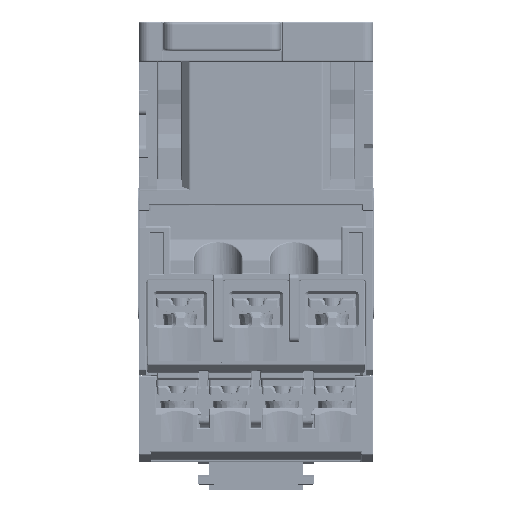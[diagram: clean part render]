
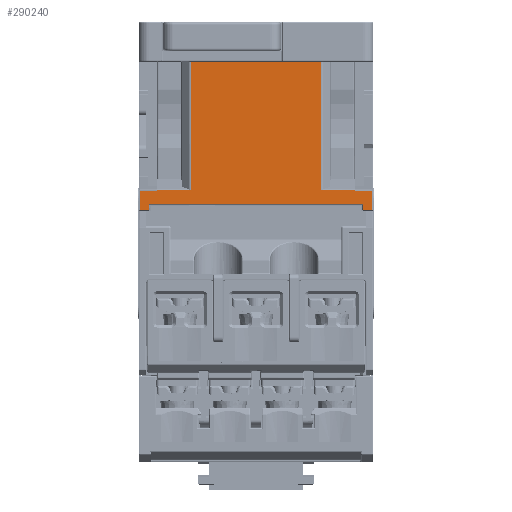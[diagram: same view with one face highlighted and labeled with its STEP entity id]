
A CAD part, front view. The second image highlights one B-rep face of the part: STEP entity #290240.
In plain terms, the highlighted planar face has unit normal (0, -1, 0).
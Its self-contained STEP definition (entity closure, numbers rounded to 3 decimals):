
#24286=DIRECTION('',(0.,0.,-1.));
#24287=VECTOR('',#24286,1.1);
#24288=CARTESIAN_POINT('',(2.65,9.,-34.7));
#24289=LINE('',#24288,#24287);
#24290=DIRECTION('',(-1.,0.,0.));
#24291=VECTOR('',#24290,1.7);
#24292=CARTESIAN_POINT('',(2.65,9.,-35.8));
#24293=LINE('',#24292,#24291);
#24294=DIRECTION('',(0.,0.,1.));
#24295=VECTOR('',#24294,3.648);
#24296=CARTESIAN_POINT('',(0.95,9.,-35.8));
#24297=LINE('',#24296,#24295);
#24298=DIRECTION('',(1.,0.,0.));
#24299=VECTOR('',#24298,3.4);
#24300=CARTESIAN_POINT('',(0.95,9.,-32.152));
#24301=LINE('',#24300,#24299);
#24302=DIRECTION('',(0.,0.,-1.));
#24303=VECTOR('',#24302,24.43);
#24304=CARTESIAN_POINT('',(10.657,9.,-7.7));
#24305=LINE('',#24304,#24303);
#24306=DIRECTION('',(1.,0.,0.));
#24307=VECTOR('',#24306,24.986);
#24308=CARTESIAN_POINT('',(10.657,9.,-7.7));
#24309=LINE('',#24308,#24307);
#24310=DIRECTION('',(0.,0.,1.));
#24311=VECTOR('',#24310,24.43);
#24312=CARTESIAN_POINT('',(35.643,9.,-32.13));
#24313=LINE('',#24312,#24311);
#24314=DIRECTION('',(0.,0.,1.));
#24315=VECTOR('',#24314,0.022);
#24316=CARTESIAN_POINT('',(41.95,9.,-32.152));
#24317=LINE('',#24316,#24315);
#24318=DIRECTION('',(1.,0.,0.));
#24319=VECTOR('',#24318,3.4);
#24320=CARTESIAN_POINT('',(41.95,9.,-32.152));
#24321=LINE('',#24320,#24319);
#24322=DIRECTION('',(0.,0.,-1.));
#24323=VECTOR('',#24322,3.648);
#24324=CARTESIAN_POINT('',(45.35,9.,-32.152));
#24325=LINE('',#24324,#24323);
#24326=DIRECTION('',(-1.,0.,0.));
#24327=VECTOR('',#24326,1.7);
#24328=CARTESIAN_POINT('',(45.35,9.,-35.8));
#24329=LINE('',#24328,#24327);
#24330=DIRECTION('',(0.,0.,1.));
#24331=VECTOR('',#24330,1.1);
#24332=CARTESIAN_POINT('',(43.65,9.,-35.8));
#24333=LINE('',#24332,#24331);
#24334=DIRECTION('',(1.,0.,0.));
#24335=VECTOR('',#24334,41.);
#24336=CARTESIAN_POINT('',(2.65,9.,-34.7));
#24337=LINE('',#24336,#24335);
#33868=DIRECTION('',(-1.,0.,0.));
#33869=VECTOR('',#33868,6.307);
#33870=CARTESIAN_POINT('',(41.95,9.,-32.13));
#33871=LINE('',#33870,#33869);
#33890=CARTESIAN_POINT('',(35.643,9.,-32.13));
#33912=CARTESIAN_POINT('',(10.657,9.,-32.13));
#33923=DIRECTION('',(-1.,0.,0.));
#33924=VECTOR('',#33923,6.307);
#33925=CARTESIAN_POINT('',(10.657,9.,-32.13));
#33926=LINE('',#33925,#33924);
#33999=CARTESIAN_POINT('',(4.35,8.999,-32.136));
#34284=CARTESIAN_POINT('',(4.35,9.,-32.131));
#34285=CARTESIAN_POINT('',(4.35,9.,-32.134));
#34286=CARTESIAN_POINT('',(4.35,9.,-32.137));
#34287=CARTESIAN_POINT('',(4.35,9.,-32.145));
#34288=CARTESIAN_POINT('',(4.35,9.,-32.149));
#34289=CARTESIAN_POINT('',(4.35,9.,-32.152));
#210471=CARTESIAN_POINT('',(0.95,9.,-32.152));
#210472=CARTESIAN_POINT('',(4.35,9.,-32.152));
#210473=VERTEX_POINT('',#210471);
#210474=VERTEX_POINT('',#210472);
#210487=CARTESIAN_POINT('',(41.95,9.,-32.152));
#210488=CARTESIAN_POINT('',(45.35,9.,-32.152));
#210489=VERTEX_POINT('',#210487);
#210490=VERTEX_POINT('',#210488);
#210501=VERTEX_POINT('',#33999);
#210510=CARTESIAN_POINT('',(41.95,9.,-32.13));
#210512=VERTEX_POINT('',#210510);
#211212=VERTEX_POINT('',#33890);
#211213=VERTEX_POINT('',#33912);
#214453=CARTESIAN_POINT('',(35.643,9.,-7.7));
#214454=VERTEX_POINT('',#214453);
#214457=CARTESIAN_POINT('',(10.657,9.,-7.7));
#214458=VERTEX_POINT('',#214457);
#215044=CARTESIAN_POINT('',(45.35,9.,-35.8));
#215046=VERTEX_POINT('',#215044);
#215085=CARTESIAN_POINT('',(0.95,9.,-35.8));
#215087=VERTEX_POINT('',#215085);
#215191=CARTESIAN_POINT('',(2.65,9.,-35.8));
#215192=VERTEX_POINT('',#215191);
#215195=CARTESIAN_POINT('',(2.65,9.,-34.7));
#215196=VERTEX_POINT('',#215195);
#215205=CARTESIAN_POINT('',(43.65,9.,-35.8));
#215206=VERTEX_POINT('',#215205);
#215207=CARTESIAN_POINT('',(43.65,9.,-34.7));
#215208=VERTEX_POINT('',#215207);
#290202=CARTESIAN_POINT('',(8.95,9.,-7.5));
#290203=DIRECTION('',(0.,1.,0.));
#290204=DIRECTION('',(0.,0.,-1.));
#290205=AXIS2_PLACEMENT_3D('',#290202,#290203,#290204);
#290206=PLANE('',#290205);
#290208=ORIENTED_EDGE('',*,*,#290207,.T.);
#290210=ORIENTED_EDGE('',*,*,#290209,.T.);
#290212=ORIENTED_EDGE('',*,*,#290211,.T.);
#290214=ORIENTED_EDGE('',*,*,#290213,.T.);
#290216=ORIENTED_EDGE('',*,*,#290215,.F.);
#290218=ORIENTED_EDGE('',*,*,#290217,.F.);
#290220=ORIENTED_EDGE('',*,*,#290219,.F.);
#290222=ORIENTED_EDGE('',*,*,#290221,.T.);
#290224=ORIENTED_EDGE('',*,*,#290223,.F.);
#290226=ORIENTED_EDGE('',*,*,#290225,.F.);
#290228=ORIENTED_EDGE('',*,*,#290227,.F.);
#290230=ORIENTED_EDGE('',*,*,#290229,.T.);
#290231=ORIENTED_EDGE('',*,*,#290187,.T.);
#290233=ORIENTED_EDGE('',*,*,#290232,.T.);
#290235=ORIENTED_EDGE('',*,*,#290234,.T.);
#290237=ORIENTED_EDGE('',*,*,#290236,.F.);
#290238=EDGE_LOOP('',(#290208,#290210,#290212,#290214,#290216,#290218,#290220,
#290222,#290224,#290226,#290228,#290230,#290231,#290233,#290235,#290237));
#290239=FACE_OUTER_BOUND('',#290238,.F.);
#290240=ADVANCED_FACE('',(#290239),#290206,.F.);
#34290=B_SPLINE_CURVE_WITH_KNOTS('',3,(#34284,#34285,#34286,#34287,#34288,
#34289),.UNSPECIFIED.,.F.,.F.,(4,1,1,4),(0.,0.333,
0.667,1.),.UNSPECIFIED.);
#290187=EDGE_CURVE('',#210490,#215046,#24325,.T.);
#290207=EDGE_CURVE('',#215196,#215192,#24289,.T.);
#290209=EDGE_CURVE('',#215192,#215087,#24293,.T.);
#290211=EDGE_CURVE('',#215087,#210473,#24297,.T.);
#290213=EDGE_CURVE('',#210473,#210474,#24301,.T.);
#290215=EDGE_CURVE('',#210501,#210474,#34290,.T.);
#290217=EDGE_CURVE('',#211213,#210501,#33926,.T.);
#290219=EDGE_CURVE('',#214458,#211213,#24305,.T.);
#290221=EDGE_CURVE('',#214458,#214454,#24309,.T.);
#290223=EDGE_CURVE('',#211212,#214454,#24313,.T.);
#290225=EDGE_CURVE('',#210512,#211212,#33871,.T.);
#290227=EDGE_CURVE('',#210489,#210512,#24317,.T.);
#290229=EDGE_CURVE('',#210489,#210490,#24321,.T.);
#290232=EDGE_CURVE('',#215046,#215206,#24329,.T.);
#290234=EDGE_CURVE('',#215206,#215208,#24333,.T.);
#290236=EDGE_CURVE('',#215196,#215208,#24337,.T.);
